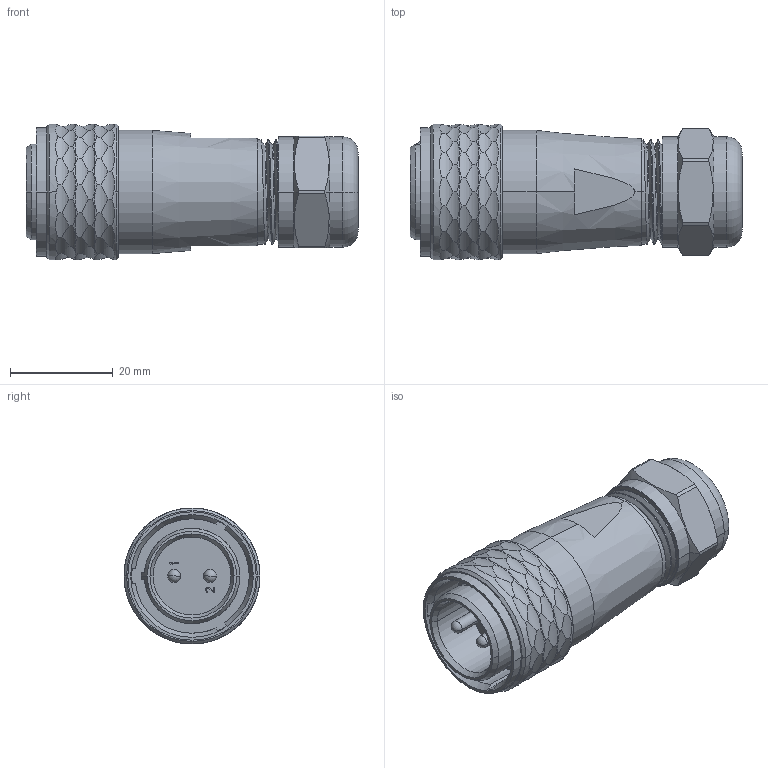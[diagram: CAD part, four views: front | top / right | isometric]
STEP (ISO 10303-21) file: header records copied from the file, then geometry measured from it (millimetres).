
FILE_DESCRIPTION((''),'2;1');
FILE_NAME('STP','2021-02-03T',('Administrator'),(''),'CREO PARAMETRIC BY PTC INC, 2016130','CREO PARAMETRIC BY PTC INC, 2016130','');
FILE_SCHEMA(('AUTOMOTIVE_DESIGN { 1 0 10303 214 1 1 1 1 }'));
Length unit declared in the file: millimetre
Products named in the file (1): STP
Bounding box: 64.7 x 26.5 x 26.5 mm (x, y, z)
Volume: 24182 mm3; surface area: 7844.5 mm2
Topology: 1 solids, 2 shells, 247 faces, 694 edges, 459 vertices
Faces by surface type: cylinder 145, plane 71, cone 18, torus 6, sphere 4, bspline 3
Entity records: 11189 total; most frequent: CARTESIAN_POINT 5216, ORIENTED_EDGE 1376, DIRECTION 1010, EDGE_CURVE 688, VERTEX_POINT 459, AXIS2_PLACEMENT_3D 401, B_SPLINE_CURVE_WITH_KNOTS 323, EDGE_LOOP 263
